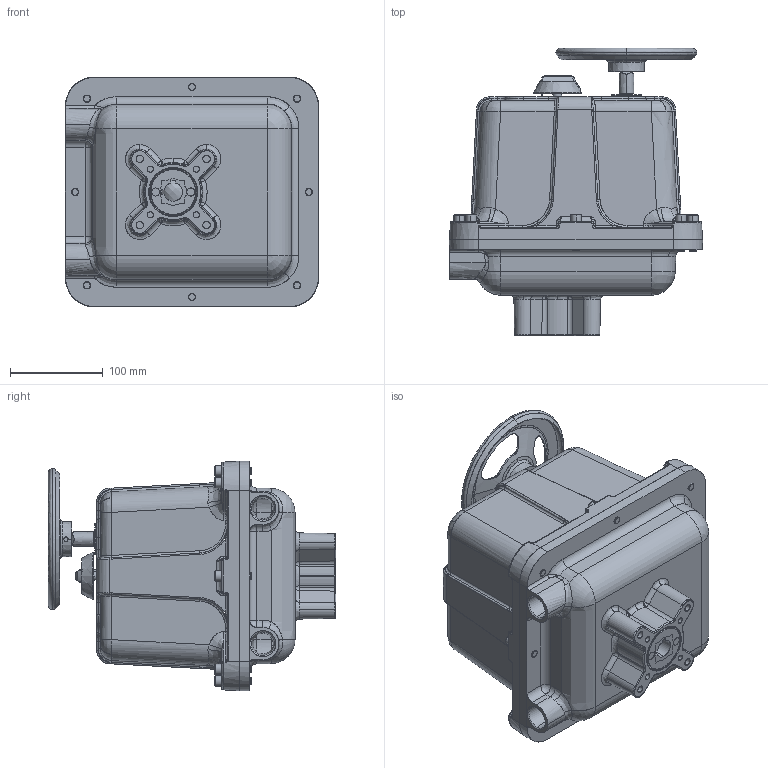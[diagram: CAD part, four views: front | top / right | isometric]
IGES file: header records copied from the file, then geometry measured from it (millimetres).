
Start section: SolidWorks IGES file using analytic representation for surfaces
Global section: file name: C:\SWPDM\PDM_VAULT\shrewsbury\cad\valvcon\drawings\VCD00075.IGS; native system: SolidWorks 2020; preprocessor: SolidWorks 2020; author: sbulovejmi; date: 230215.094916; units: inch
Bounding box: 273.81 x 310.59 x 248.41 mm (x, y, z)
Surface area: 405651.4 mm2 (no closed solid volume)
Topology: 0 solids, 0 shells, 1713 faces, 15722 edges, 15697 vertices
Faces by surface type: bspline 976, revolution 737
